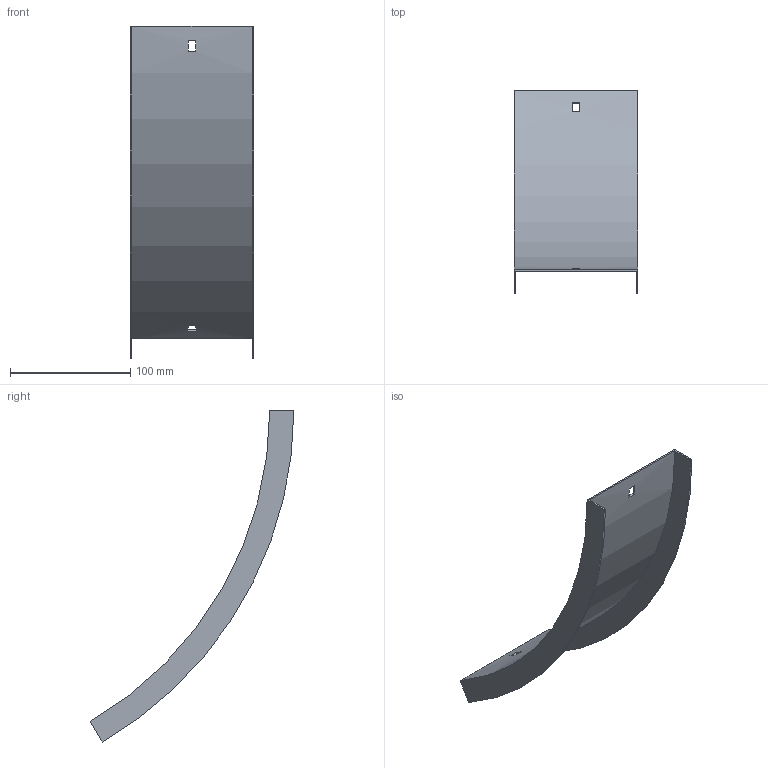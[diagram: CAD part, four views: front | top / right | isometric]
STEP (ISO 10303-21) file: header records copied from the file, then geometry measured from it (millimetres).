
FILE_DESCRIPTION (( 'STEP AP214' ), '1' );
FILE_NAME ('B2X40N3R100X.step', '2025-03-20T09:44:26', ( '' ), ( '' ), 'SwSTEP 2.0', 'SolidWorks 2023', '' );
FILE_SCHEMA (( 'AUTOMOTIVE_DESIGN' ));
Length unit declared in the file: millimetre
Products named in the file (1): B2X40N3R100X
Bounding box: 103 x 169.25 x 275.83 mm (x, y, z)
Volume: 66213.9 mm3; surface area: 89796.6 mm2
Topology: 1 solids, 1 shells, 18 faces, 48 edges, 32 vertices
Faces by surface type: plane 14, cylinder 4
Entity records: 599 total; most frequent: DIRECTION 102, CARTESIAN_POINT 99, ORIENTED_EDGE 96, EDGE_CURVE 48, AXIS2_PLACEMENT_3D 35, VERTEX_POINT 32, LINE 32, VECTOR 32
